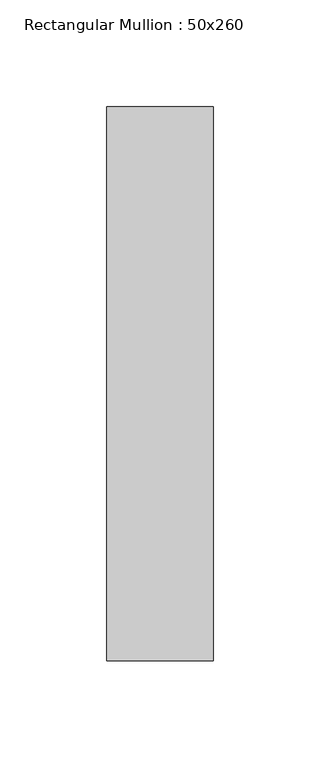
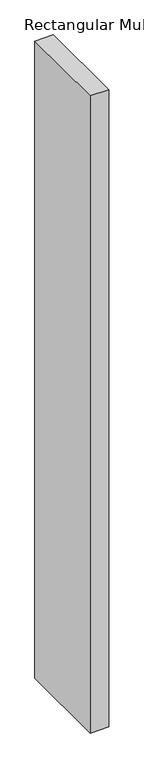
"""IFC4 building model written with IfcOpenShell, lengths in millimetres: member geometry, Rectangular Mullion : 50x260."""

import ifcopenshell
import ifcopenshell.guid

model = None  # the IFC model being written
_history = None  # IfcOwnerHistory: only IFC2X3 demands one
_inside = {}  # id of a spatial element -> (the spatial element, [elements in it])
_under = {}  # id of a project, library or spatial element -> (it, [spatial elements below it])
_declared = {}  # id of a project -> (the project, [libraries it declares])
_typed = {}  # id of a type object -> (the type object, [elements of that type])
_made_of = {}  # id of a material, layer set ... -> (it, [elements and type objects made of it])


def new_model(schema):
    """Start an empty IFC model of exactly this schema.

    Asked for "IFC4X3", IfcOpenShell would pick the latest addendum, in which some entities
    have other attributes; the version numbers below select the first issue.
    IFC2X3 requires an IfcOwnerHistory on every rooted entity: one is made here for all.
    """
    global model, _history
    if schema == "IFC4X3":
        model = ifcopenshell.file(schema_version=(4, 3, 0, 0))
    else:
        model = ifcopenshell.file(schema=schema)
    _inside.clear()
    _under.clear()
    _declared.clear()
    _typed.clear()
    _made_of.clear()
    _history = None
    if model.schema == "IFC2X3":
        org = make("IfcOrganization", Name="unknown")
        user = make(
            "IfcPersonAndOrganization",
            ThePerson=make("IfcPerson", FamilyName="unknown"),
            TheOrganization=org,
        )
        app = make(
            "IfcApplication",
            ApplicationDeveloper=org,
            Version="unknown",
            ApplicationFullName="unknown",
            ApplicationIdentifier="unknown",
        )
        _history = make(
            "IfcOwnerHistory",
            OwningUser=user,
            OwningApplication=app,
            ChangeAction="ADDED",
            CreationDate=0,
        )
    return model


def make(cls, **values):
    """One entity of the class cls with the attributes given. An attribute that is None is left unset."""
    return model.create_entity(
        cls, **{name: value for name, value in values.items() if value is not None}
    )


def rooted(cls, **values):
    """An entity with a GlobalId (a new one), such as an element, a storey or a relation."""
    return make(cls, GlobalId=ifcopenshell.guid.new(), OwnerHistory=_history, **values)


def si_unit(unit_type, name, prefix=None):
    """IfcSIUnit, for example si_unit("LENGTHUNIT", "METRE", prefix="MILLI")."""
    return make("IfcSIUnit", UnitType=unit_type, Prefix=prefix, Name=name)


def assignment(units):
    """IfcUnitAssignment: the units of a project."""
    return None if units is None else make("IfcUnitAssignment", Units=units)


def point(xyz):
    """IfcCartesianPoint."""
    return None if xyz is None else make("IfcCartesianPoint", Coordinates=xyz)


def direction(xyz):
    """IfcDirection."""
    return None if xyz is None else make("IfcDirection", DirectionRatios=xyz)


def frame(location, z_axis=None, x_axis=None):
    """IfcAxis2Placement3D, a coordinate frame: its origin and axes. An axis left out is left unset."""
    return make(
        "IfcAxis2Placement3D",
        Location=point(location),
        Axis=direction(z_axis),
        RefDirection=direction(x_axis),
    )


def origin():
    """The frame at (0, 0, 0) with its axes left unset."""
    return frame((0.0, 0.0, 0.0))


def place(relative_to, where):
    """IfcLocalPlacement: puts the frame where relative to a parent placement (None: the world)."""
    return make(
        "IfcLocalPlacement", PlacementRelTo=relative_to, RelativePlacement=where
    )


def context(
    kind, dimensions, precision=None, world=None, true_north=None, identifier=None
):
    """IfcGeometricRepresentationContext, for example the 3D "Model" context."""
    return make(
        "IfcGeometricRepresentationContext",
        ContextIdentifier=identifier,
        ContextType=kind,
        CoordinateSpaceDimension=dimensions,
        Precision=precision,
        WorldCoordinateSystem=world,
        TrueNorth=true_north,
    )


def project(units=None, contexts=None):
    """IfcProject with its units and contexts."""
    return rooted(
        "IfcProject",
        Name="project",
        RepresentationContexts=contexts,
        UnitsInContext=assignment(units),
    )


def spatial(cls, under=None, at=None, **own):
    """A site, building, storey or space (cls), placed at a placement, below another one or the project."""
    s = rooted(cls, ObjectPlacement=at, **own)
    if under is not None:
        _under.setdefault(under.id(), (under, []))[1].append(s)
    return s


def polyline(points):
    """IfcPolyline through the points."""
    return make("IfcPolyline", Points=[point(p) for p in points])


def outline(outer, holes=None, kind="AREA"):
    """IfcArbitraryClosedProfileDef: a profile drawn as a closed curve; with holes, ...WithVoids."""
    if holes is None:
        return make("IfcArbitraryClosedProfileDef", ProfileType=kind, OuterCurve=outer)
    return make(
        "IfcArbitraryProfileDefWithVoids",
        ProfileType=kind,
        OuterCurve=outer,
        InnerCurves=holes,
    )


def extrude(swept, where, along, depth):
    """IfcExtrudedAreaSolid: the profile swept, set in the frame where, extruded along a direction by depth."""
    return make(
        "IfcExtrudedAreaSolid",
        SweptArea=swept,
        Position=where,
        ExtrudedDirection=direction(along),
        Depth=depth,
    )


def shape(context_of_items, identifier, shape_type, items):
    """IfcShapeRepresentation: the items that make up one representation, for example the "Body"."""
    return make(
        "IfcShapeRepresentation",
        ContextOfItems=context_of_items,
        RepresentationIdentifier=identifier,
        RepresentationType=shape_type,
        Items=items,
    )


def source(mapping_origin, context_of_items, identifier, shape_type, items):
    """IfcRepresentationMap: a shape defined once, which mapped items show again and again."""
    return make(
        "IfcRepresentationMap",
        MappingOrigin=mapping_origin,
        MappedRepresentation=shape(context_of_items, identifier, shape_type, items),
    )


def transform(
    local_origin,
    x_axis=None,
    y_axis=None,
    z_axis=None,
    scale=None,
    scale2=None,
    scale3=None,
    uniform=True,
):
    """IfcCartesianTransformationOperator3D, or its non-uniform kind. x_axis, y_axis, z_axis: its Axis1, 2, 3."""
    if uniform:
        return make(
            "IfcCartesianTransformationOperator3D",
            Axis1=direction(x_axis),
            Axis2=direction(y_axis),
            LocalOrigin=point(local_origin),
            Scale=scale,
            Axis3=direction(z_axis),
        )
    return make(
        "IfcCartesianTransformationOperator3DnonUniform",
        Axis1=direction(x_axis),
        Axis2=direction(y_axis),
        LocalOrigin=point(local_origin),
        Scale=scale,
        Axis3=direction(z_axis),
        Scale2=scale2,
        Scale3=scale3,
    )


def mapped(mapping_source, mapping_target):
    """IfcMappedItem: shows the shape of a source again, moved by a transform."""
    return make(
        "IfcMappedItem", MappingSource=mapping_source, MappingTarget=mapping_target
    )


def made_of(thing, what):
    """Note that an element or type object is made of a material, layer set ...; save() writes the relation."""
    if what is not None:
        _made_of.setdefault(what.id(), (what, []))[1].append(thing)
    return thing


def element(
    cls,
    number,
    at=None,
    inside=None,
    cuts=None,
    type_object=None,
    material=None,
    context=None,
    identifier="Body",
    shape_type=None,
    held_by="IfcProductDefinitionShape",
    body=None,
    shapes=None,
    **own,
):
    """One element of the class cls, such as IfcWall. Its Tag is "e" and its number.

    at: its placement. inside: the storey or other place that contains it. cuts: it is an
    opening in that element (IfcRelVoidsElement). A single representation is given by context,
    identifier, shape_type and body (its items); several are given by shapes. held_by: the class
    of the entity that holds the representations. save() writes the other relations.
    """
    e = rooted(cls, Tag="e%d" % number, ObjectPlacement=at, **own)
    if body is not None:
        shapes = [shape(context, identifier, shape_type, body)]
    if shapes is not None:
        e.Representation = make(held_by, Representations=shapes)
    if inside is not None:
        _inside.setdefault(inside.id(), (inside, []))[1].append(e)
    if cuts is not None:
        rooted(
            "IfcRelVoidsElement", RelatingBuildingElement=cuts, RelatedOpeningElement=e
        )
    if type_object is not None:
        _typed.setdefault(type_object.id(), (type_object, []))[1].append(e)
    return made_of(e, material)


def aggregate(whole, parts):
    """IfcRelAggregates: a whole, such as a stair, and the parts it consists of."""
    return rooted("IfcRelAggregates", RelatingObject=whole, RelatedObjects=parts)


def save(model, path):
    """Write the relations noted so far, then the file.

    IfcRelAggregates (storeys below a building ...), IfcRelContainedInSpatialStructure (elements
    in a storey), IfcRelDefinesByType, IfcRelAssociatesMaterial and IfcRelDeclares: one each for
    every whole, place, type object, material and project.
    """
    for whole, parts in _under.values():
        aggregate(whole, parts)
    for where, things in _inside.values():
        rooted(
            "IfcRelContainedInSpatialStructure",
            RelatedElements=things,
            RelatingStructure=where,
        )
    for kind, things in _typed.values():
        rooted("IfcRelDefinesByType", RelatedObjects=things, RelatingType=kind)
    for what, things in _made_of.values():
        rooted("IfcRelAssociatesMaterial", RelatedObjects=things, RelatingMaterial=what)
    for by, libraries in _declared.values():
        rooted("IfcRelDeclares", RelatingContext=by, RelatedDefinitions=libraries)
    model.write(path)


def rectangular_mullion_50x260_8ec13ab9(model_context):
    return source(origin(), model_context, "Body", "SweptSolid", [
        extrude(outline(polyline([(0.0, 130.0), (0.0, -130.0), (-50.0, -130.0), (-50.0, 130.0), (0.0, 130.0)])), frame((0.0, 0.0, -1829.3492724), z_axis=(0.0, 0.0, 1.0), x_axis=(1.0, 0.0, 0.0)), (0.0, 0.0, 1.0), 1829.3492724),
    ])


if __name__ == "__main__":
    model = new_model("IFC4")
    model_context = context("Model", 3, world=origin())
    ifc_project = project(units=[si_unit("LENGTHUNIT", "METRE", prefix="MILLI")], contexts=[model_context])
    site = spatial("IfcSite", under=ifc_project)
    building = spatial("IfcBuilding", under=site)
    placement = place(None, origin())
    rectangular_mullion_50x260_shape = rectangular_mullion_50x260_8ec13ab9(model_context)
    element("IfcMember", 1, ObjectType="Rectangular Mullion : 50x260", at=placement, inside=building, context=model_context, shape_type="MappedRepresentation", body=[
        mapped(rectangular_mullion_50x260_shape, transform((0.0, 0.0, 0.0), x_axis=(1.0, 0.0, 0.0), y_axis=(0.0, 1.0, 0.0), z_axis=(0.0, 0.0, 1.0))),
    ])
    save(model, "model.ifc")
